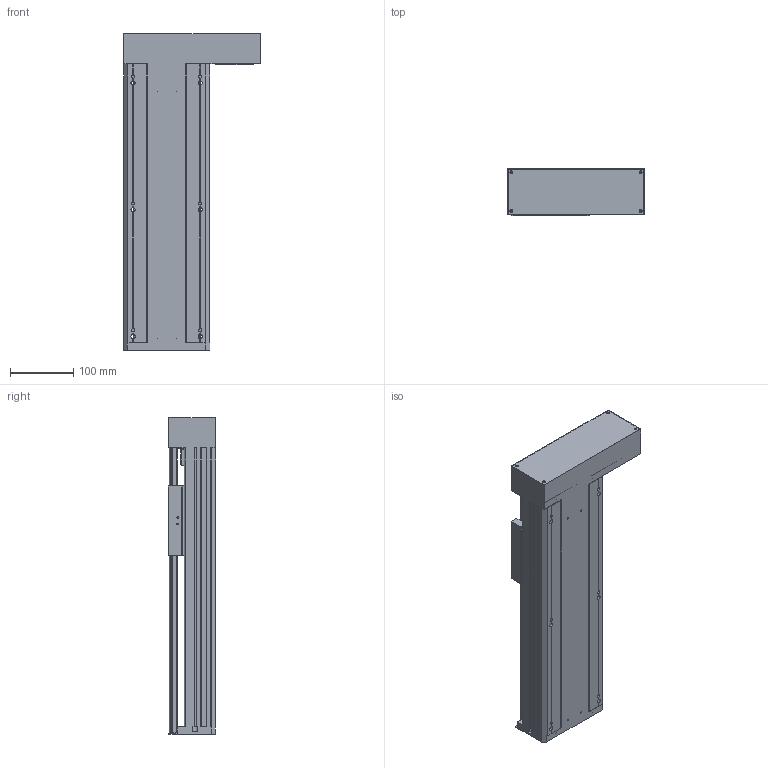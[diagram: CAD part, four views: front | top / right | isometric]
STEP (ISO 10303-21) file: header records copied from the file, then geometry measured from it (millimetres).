
FILE_DESCRIPTION(/* description */ (''),/* implementation_level */ '2;1');
FILE_NAME(/* name */ 'TKA136-FR-250_asm1.stp',/* time_stamp */ '2016-05-07T14:10:51+08:00',/* author */ (''),/* organization */ (''),/* preprocessor_version */ 'ST-DEVELOPER v15',/* originating_system */ 'SIEMENS PLM Software NX 8.5',/* authorisation */ '');
FILE_SCHEMA (('AUTOMOTIVE_DESIGN { 1 0 10303 214 3 1 1 1 }'));
Length unit declared in the file: millimetre
Products named in the file (3): 100-02; 100-01; TKA136-FR-250_asm1
Assembly tree (2 placements, depth 2):
  TKA136-FR-250_asm1
    100-01
    100-02
Bounding box: 216 x 75 x 500 mm (x, y, z)
Volume: 1780486.9 mm3; surface area: 694226.1 mm2
Topology: 2 solids, 12 shells, 849 faces, 2344 edges, 1533 vertices
Faces by surface type: plane 411, cylinder 385, cone 53
Full cylindrical faces by diameter (mm): 2.5 x4, 3 x2, 3.3 x15, 4 x4, 4.2 x14, 4.5 x26, 5 x10, 5.5 x26, 6.6 x10, 8 x20, 10 x9, 10.5 x6, 11 x4, 11.6 x1, 12 x9, 15 x3, 16 x5, 17 x1, 24 x5, 26 x1, 28 x1, 46 x2, 50 x1
Entity records: 27705 total; most frequent: CARTESIAN_POINT 7112, DIRECTION 4307, ORIENTED_EDGE 3946, EDGE_CURVE 1973, AXIS2_PLACEMENT_3D 1637, VERTEX_POINT 1419, EDGE_LOOP 1245, LINE 1033
